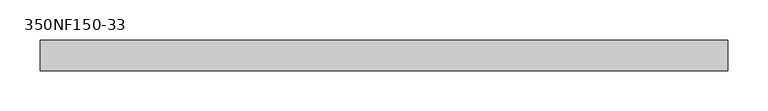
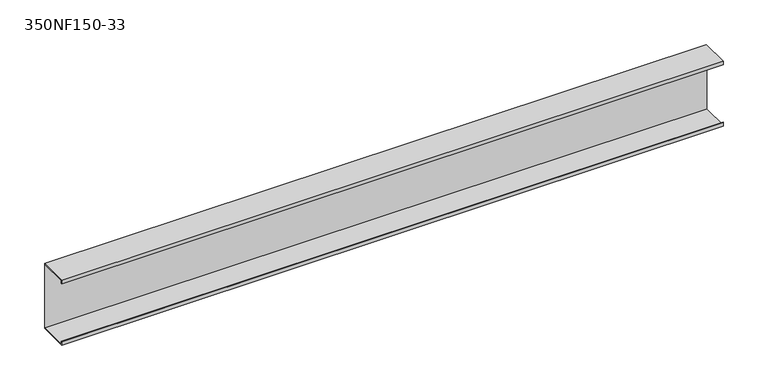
"""IFC4 building model written with IfcOpenShell, lengths in millimetres: beam geometry, BIMSF-SSMA-S : 350NF150-33."""

from ifc_helpers import new_model, si_unit, frame, origin, place, context, project, spatial, polyline, outline, extrude, source, transform, mapped, element, save


def beam_350nf150_33_51850225(model_context):
    return source(origin(), model_context, "Body", "SweptSolid", [
        extrude(outline(polyline([(19.05, 44.45), (19.05, -44.45), (-19.05, -44.45), (-19.05, -39.6748), (-18.1676842, -39.6748), (-18.1676842, -43.5676842), (18.1676842, -43.5676842), (18.1676842, 43.5676842), (-18.1676842, 43.5676842), (-18.1676842, 39.6748), (-19.05, 39.6748), (-19.05, 44.45), (19.05, 44.45)])), frame((-428.7027714, 0.0, 0.0), z_axis=(1.0, 0.0, 0.0), x_axis=(0.0, 1.0, 0.0)), (0.0, 0.0, 1.0), 857.4055428),
    ])


if __name__ == "__main__":
    model = new_model("IFC4")
    model_context = context("Model", 3, world=origin())
    ifc_project = project(units=[si_unit("LENGTHUNIT", "METRE", prefix="MILLI")], contexts=[model_context])
    site = spatial("IfcSite", under=ifc_project)
    building = spatial("IfcBuilding", under=site)
    placement = place(None, origin())
    beam_350nf150_33_shape = beam_350nf150_33_51850225(model_context)
    element("IfcBeam", 1, ObjectType="BIMSF-SSMA-S : 350NF150-33", at=placement, inside=building, context=model_context, shape_type="MappedRepresentation", body=[
        mapped(beam_350nf150_33_shape, transform((0.0, 0.0, 0.0), x_axis=(1.0, 0.0, 0.0), y_axis=(0.0, 1.0, 0.0), z_axis=(0.0, 0.0, 1.0))),
    ])
    save(model, "model.ifc")
